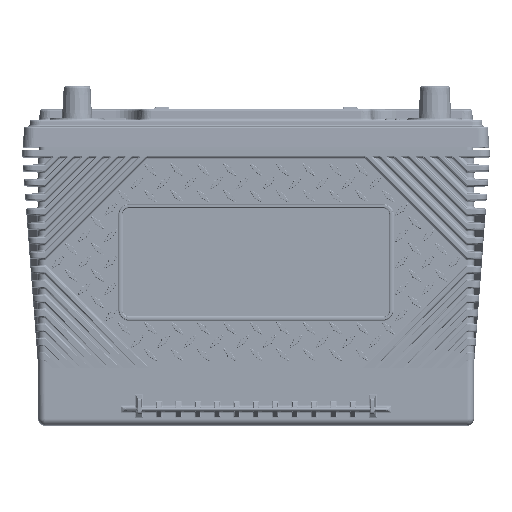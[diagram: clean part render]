
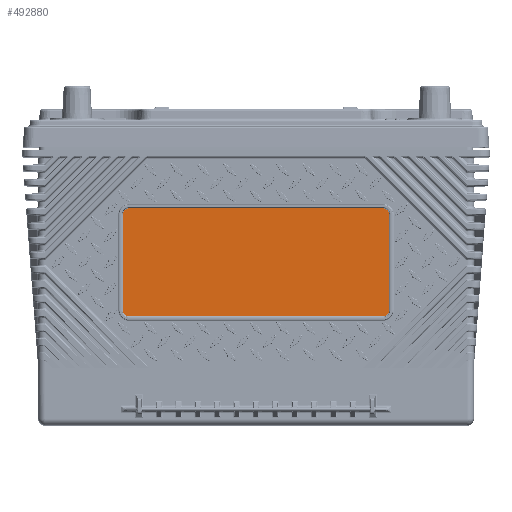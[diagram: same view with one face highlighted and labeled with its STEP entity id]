
A CAD part, top view. The second image highlights one B-rep face of the part: STEP entity #492880.
In plain terms, the highlighted planar face has unit normal (0, -0.001, 1).
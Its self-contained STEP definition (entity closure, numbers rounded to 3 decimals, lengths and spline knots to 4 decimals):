
#2123 = DIRECTION ( 'NONE',  ( 1., 0., 0. ) ) ;
#5927 = EDGE_CURVE ( 'NONE', #72064, #394051, #445257, .T. ) ;
#8370 = EDGE_CURVE ( 'NONE', #441346, #153851, #272129, .T. ) ;
#12289 = CARTESIAN_POINT ( 'NONE',  ( 2.9365, 5.0135, 3.1338 ) ) ;
#29208 = VERTEX_POINT ( 'NONE', #277370 ) ;
#34800 = EDGE_CURVE ( 'NONE', #386548, #273113, #75910, .T. ) ;
#52313 = DIRECTION ( 'NONE',  ( 0., -0.001, 1. ) ) ;
#60255 = CARTESIAN_POINT ( 'NONE',  ( 3.078, 0., 3.1285 ) ) ;
#64194 = LINE ( 'NONE', #222853, #230910 ) ;
#65252 = DIRECTION ( 'NONE',  ( 0., 1., 0.001 ) ) ;
#72064 = VERTEX_POINT ( 'NONE', #476887 ) ;
#74020 = CIRCLE ( 'NONE', #347357, 0.1415 ) ;
#75910 = CIRCLE ( 'NONE', #309368, 0.1415 ) ;
#79855 = CARTESIAN_POINT ( 'NONE',  ( -3.078, 2.664, 3.1313 ) ) ;
#84727 = CARTESIAN_POINT ( 'NONE',  ( -5.034, 0., 3.1285 ) ) ;
#88004 = EDGE_CURVE ( 'NONE', #394051, #386548, #450592, .T. ) ;
#94614 = VECTOR ( 'NONE', #65252, 39.3701 ) ;
#94915 = DIRECTION ( 'NONE',  ( 0., -1., -0.001 ) ) ;
#95018 = DIRECTION ( 'NONE',  ( 0., -1., -0.001 ) ) ;
#100807 = EDGE_CURVE ( 'NONE', #273113, #401775, #64194, .T. ) ;
#125463 = DIRECTION ( 'NONE',  ( 0., -1., -0.001 ) ) ;
#126714 = ORIENTED_EDGE ( 'NONE', *, *, #288329, .T. ) ;
#141411 = ORIENTED_EDGE ( 'NONE', *, *, #168999, .T. ) ;
#150860 = LINE ( 'NONE', #191108, #284847 ) ;
#153766 = DIRECTION ( 'NONE',  ( 0., -1., -0.001 ) ) ;
#153851 = VERTEX_POINT ( 'NONE', #79855 ) ;
#168999 = EDGE_CURVE ( 'NONE', #401775, #441346, #74020, .T. ) ;
#175680 = CARTESIAN_POINT ( 'NONE',  ( 2.9365, 2.664, 3.1313 ) ) ;
#191108 = CARTESIAN_POINT ( 'NONE',  ( -5.034, 2.5225, 3.1311 ) ) ;
#194450 = DIRECTION ( 'NONE',  ( 0., -0.001, 1. ) ) ;
#198490 = CARTESIAN_POINT ( 'NONE',  ( -2.9365, 2.664, 3.1313 ) ) ;
#208345 = CARTESIAN_POINT ( 'NONE',  ( 2.9365, 4.872, 3.1336 ) ) ;
#209060 = ORIENTED_EDGE ( 'NONE', *, *, #314395, .T. ) ;
#221922 = CARTESIAN_POINT ( 'NONE',  ( -3.078, 0., 3.1285 ) ) ;
#222853 = CARTESIAN_POINT ( 'NONE',  ( -5.034, 5.0135, 3.1338 ) ) ;
#230910 = VECTOR ( 'NONE', #376503, 39.3701 ) ;
#252575 = ORIENTED_EDGE ( 'NONE', *, *, #100807, .T. ) ;
#272129 = LINE ( 'NONE', #221922, #373344 ) ;
#273113 = VERTEX_POINT ( 'NONE', #12289 ) ;
#273752 = DIRECTION ( 'NONE',  ( 0., -0.001, 1. ) ) ;
#274991 = CARTESIAN_POINT ( 'NONE',  ( -2.9365, 4.872, 3.1336 ) ) ;
#277370 = CARTESIAN_POINT ( 'NONE',  ( -2.9365, 2.5225, 3.1311 ) ) ;
#277458 = DIRECTION ( 'NONE',  ( 0., -1., -0.001 ) ) ;
#284847 = VECTOR ( 'NONE', #2123, 39.3701 ) ;
#288329 = EDGE_CURVE ( 'NONE', #29208, #72064, #150860, .T. ) ;
#300960 = ORIENTED_EDGE ( 'NONE', *, *, #88004, .T. ) ;
#309368 = AXIS2_PLACEMENT_3D ( 'NONE', #208345, #329182, #94915 ) ;
#314052 = FACE_OUTER_BOUND ( 'NONE', #418193, .T. ) ;
#314395 = EDGE_CURVE ( 'NONE', #153851, #29208, #320747, .T. ) ;
#316510 = PLANE ( 'NONE',  #359646 ) ;
#320747 = CIRCLE ( 'NONE', #481791, 0.1415 ) ;
#328897 = CARTESIAN_POINT ( 'NONE',  ( -2.9365, 5.0135, 3.1338 ) ) ;
#329182 = DIRECTION ( 'NONE',  ( 0., -0.001, 1. ) ) ;
#347357 = AXIS2_PLACEMENT_3D ( 'NONE', #274991, #194450, #277458 ) ;
#357081 = CARTESIAN_POINT ( 'NONE',  ( -3.078, 4.872, 3.1336 ) ) ;
#359646 = AXIS2_PLACEMENT_3D ( 'NONE', #84727, #273752, #472550 ) ;
#373344 = VECTOR ( 'NONE', #153766, 39.3701 ) ;
#373726 = ORIENTED_EDGE ( 'NONE', *, *, #8370, .T. ) ;
#376503 = DIRECTION ( 'NONE',  ( -1., 0., 0. ) ) ;
#378559 = CARTESIAN_POINT ( 'NONE',  ( 3.078, 4.872, 3.1336 ) ) ;
#381435 = ORIENTED_EDGE ( 'NONE', *, *, #34800, .T. ) ;
#386548 = VERTEX_POINT ( 'NONE', #378559 ) ;
#394051 = VERTEX_POINT ( 'NONE', #452572 ) ;
#401775 = VERTEX_POINT ( 'NONE', #328897 ) ;
#418193 = EDGE_LOOP ( 'NONE', ( #373726, #209060, #126714, #423544, #300960, #381435, #252575, #141411 ) ) ;
#420842 = AXIS2_PLACEMENT_3D ( 'NONE', #175680, #52313, #125463 ) ;
#423544 = ORIENTED_EDGE ( 'NONE', *, *, #5927, .T. ) ;
#435095 = DIRECTION ( 'NONE',  ( 0., -0.001, 1. ) ) ;
#441346 = VERTEX_POINT ( 'NONE', #357081 ) ;
#445257 = CIRCLE ( 'NONE', #420842, 0.1415 ) ;
#450592 = LINE ( 'NONE', #60255, #94614 ) ;
#452572 = CARTESIAN_POINT ( 'NONE',  ( 3.078, 2.664, 3.1313 ) ) ;
#472550 = DIRECTION ( 'NONE',  ( 0., -1., -0.001 ) ) ;
#476887 = CARTESIAN_POINT ( 'NONE',  ( 2.9365, 2.5225, 3.1311 ) ) ;
#481791 = AXIS2_PLACEMENT_3D ( 'NONE', #198490, #435095, #95018 ) ;
#492880 = ADVANCED_FACE ( 'NONE', ( #314052 ), #316510, .T. ) ;
